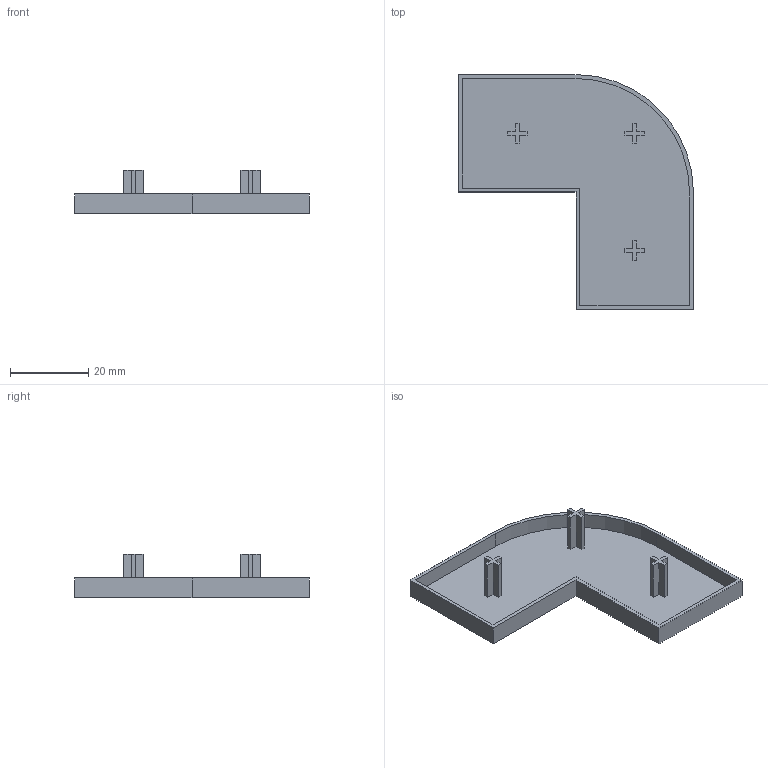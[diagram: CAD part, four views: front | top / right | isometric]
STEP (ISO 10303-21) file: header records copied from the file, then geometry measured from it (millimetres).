
FILE_DESCRIPTION (( 'STEP AP203' ), '1' );
FILE_NAME ('183-CE-CP-6630R.STEP', '2015-07-09T09:17:40', ( '' ), ( '' ), 'SwSTEP 2.0', 'SolidWorks 2013', '' );
FILE_SCHEMA (( 'CONFIG_CONTROL_DESIGN' ));
Length unit declared in the file: millimetre
Products named in the file (1): 183-CE-CP-6630R
Bounding box: 60 x 60 x 11 mm (x, y, z)
Volume: 3670.2 mm3; surface area: 7627.5 mm2
Topology: 1 solids, 1 shells, 56 faces, 150 edges, 100 vertices
Faces by surface type: plane 54, cylinder 2
Entity records: 1795 total; most frequent: CARTESIAN_POINT 307, ORIENTED_EDGE 300, DIRECTION 268, EDGE_CURVE 150, VECTOR 146, LINE 146, VERTEX_POINT 100, AXIS2_PLACEMENT_3D 61
